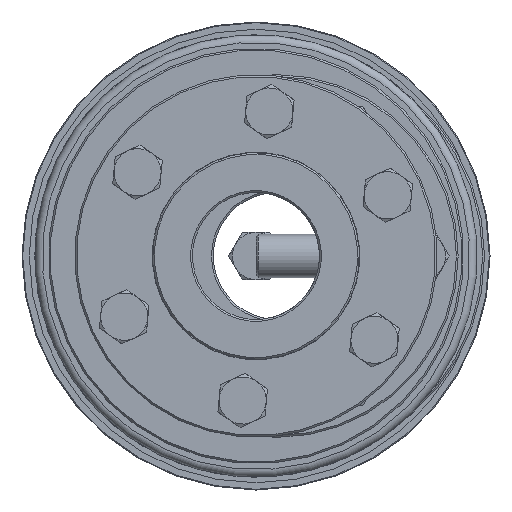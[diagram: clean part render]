
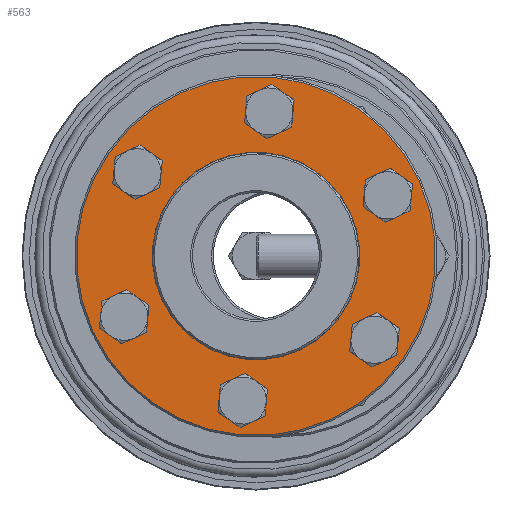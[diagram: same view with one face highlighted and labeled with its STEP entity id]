
A CAD part, left-side view. The second image highlights one B-rep face of the part: STEP entity #563.
In plain terms, the highlighted planar face has unit normal (-1, 0, 0).
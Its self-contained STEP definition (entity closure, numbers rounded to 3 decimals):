
#563 = ADVANCED_FACE( 'NONE', ( #894, #895, #896, #897, #898, #899, #900, #901 ), #902, .F. );
#894 = FACE_OUTER_BOUND( '', #1448, .T. );
#895 = FACE_BOUND( '', #1449, .T. );
#896 = FACE_BOUND( '', #1450, .T. );
#897 = FACE_BOUND( '', #1451, .T. );
#898 = FACE_BOUND( '', #1452, .T. );
#899 = FACE_BOUND( '', #1453, .T. );
#900 = FACE_BOUND( '', #1454, .T. );
#901 = FACE_BOUND( '', #1455, .T. );
#902 = PLANE( '', #1456 );
#1448 = EDGE_LOOP( '', ( #2090 ) );
#1449 = EDGE_LOOP( '', ( #2091 ) );
#1450 = EDGE_LOOP( '', ( #2092 ) );
#1451 = EDGE_LOOP( '', ( #2093 ) );
#1452 = EDGE_LOOP( '', ( #2094 ) );
#1453 = EDGE_LOOP( '', ( #2095 ) );
#1454 = EDGE_LOOP( '', ( #2096 ) );
#1455 = EDGE_LOOP( '', ( #2097 ) );
#1456 = AXIS2_PLACEMENT_3D( '', #2098, #2099, #2100 );
#2090 = ORIENTED_EDGE( '', *, *, #3081, .T. );
#2091 = ORIENTED_EDGE( '', *, *, #3082, .T. );
#2092 = ORIENTED_EDGE( '', *, *, #3083, .T. );
#2093 = ORIENTED_EDGE( '', *, *, #3084, .T. );
#2094 = ORIENTED_EDGE( '', *, *, #3080, .T. );
#2095 = ORIENTED_EDGE( '', *, *, #3085, .T. );
#2096 = ORIENTED_EDGE( '', *, *, #3071, .T. );
#2097 = ORIENTED_EDGE( '', *, *, #3079, .F. );
#2098 = CARTESIAN_POINT( '', ( 0., 28.5, 0. ) );
#2099 = DIRECTION( '', ( 1., 0., 0. ) );
#2100 = DIRECTION( '', ( 0., 1., 0. ) );
#3071 = EDGE_CURVE( 'NONE', #3401, #3401, #3402, .T. );
#3079 = EDGE_CURVE( 'NONE', #3417, #3417, #3418, .T. );
#3080 = EDGE_CURVE( 'NONE', #3419, #3419, #3420, .T. );
#3081 = EDGE_CURVE( 'NONE', #3421, #3421, #3422, .T. );
#3082 = EDGE_CURVE( 'NONE', #3423, #3423, #3424, .T. );
#3083 = EDGE_CURVE( 'NONE', #3425, #3425, #3426, .T. );
#3084 = EDGE_CURVE( 'NONE', #3427, #3427, #3428, .T. );
#3085 = EDGE_CURVE( 'NONE', #3429, #3429, #3430, .T. );
#3401 = VERTEX_POINT( '', #3865 );
#3402 = CIRCLE( '', #3866, 4.5 );
#3417 = VERTEX_POINT( '', #3881 );
#3418 = CIRCLE( '', #3882, 28.5 );
#3419 = VERTEX_POINT( '', #3883 );
#3420 = CIRCLE( '', #3884, 4.5 );
#3421 = VERTEX_POINT( '', #3885 );
#3422 = CIRCLE( '', #3886, 49.5 );
#3423 = VERTEX_POINT( '', #3887 );
#3424 = CIRCLE( '', #3888, 4.5 );
#3425 = VERTEX_POINT( '', #3889 );
#3426 = CIRCLE( '', #3890, 4.5 );
#3427 = VERTEX_POINT( '', #3891 );
#3428 = CIRCLE( '', #3892, 4.5 );
#3429 = VERTEX_POINT( '', #3893 );
#3430 = CIRCLE( '', #3894, 4.5 );
#3865 = CARTESIAN_POINT( '', ( 0., 40., -4.5 ) );
#3866 = AXIS2_PLACEMENT_3D( '', #4918, #4919, #4920 );
#3881 = CARTESIAN_POINT( '', ( 0., 0., 28.5 ) );
#3882 = AXIS2_PLACEMENT_3D( '', #4942, #4943, #4944 );
#3883 = CARTESIAN_POINT( '', ( 0., -20., -39.141 ) );
#3884 = AXIS2_PLACEMENT_3D( '', #4945, #4946, #4947 );
#3885 = CARTESIAN_POINT( '', ( 0., 0., -49.5 ) );
#3886 = AXIS2_PLACEMENT_3D( '', #4948, #4949, #4950 );
#3887 = CARTESIAN_POINT( '', ( 0., 20., 30.141 ) );
#3888 = AXIS2_PLACEMENT_3D( '', #4951, #4952, #4953 );
#3889 = CARTESIAN_POINT( '', ( 0., -20., 30.141 ) );
#3890 = AXIS2_PLACEMENT_3D( '', #4954, #4955, #4956 );
#3891 = CARTESIAN_POINT( '', ( 0., -40., -4.5 ) );
#3892 = AXIS2_PLACEMENT_3D( '', #4957, #4958, #4959 );
#3893 = CARTESIAN_POINT( '', ( 0., 20., -39.141 ) );
#3894 = AXIS2_PLACEMENT_3D( '', #4960, #4961, #4962 );
#4918 = CARTESIAN_POINT( '', ( 0., 40., 0. ) );
#4919 = DIRECTION( '', ( 1., 0., 0. ) );
#4920 = DIRECTION( '', ( 0., 0., -1. ) );
#4942 = CARTESIAN_POINT( '', ( 0., 0., 0. ) );
#4943 = DIRECTION( '', ( -1., 0., 0. ) );
#4944 = DIRECTION( '', ( 0., 0., 1. ) );
#4945 = CARTESIAN_POINT( '', ( 0., -20., -34.641 ) );
#4946 = DIRECTION( '', ( 1., 0., 0. ) );
#4947 = DIRECTION( '', ( 0., 0., -1. ) );
#4948 = CARTESIAN_POINT( '', ( 0., 0., 0. ) );
#4949 = DIRECTION( '', ( -1., 0., 0. ) );
#4950 = DIRECTION( '', ( 0., 0., -1. ) );
#4951 = CARTESIAN_POINT( '', ( 0., 20., 34.641 ) );
#4952 = DIRECTION( '', ( 1., 0., 0. ) );
#4953 = DIRECTION( '', ( 0., 0., -1. ) );
#4954 = CARTESIAN_POINT( '', ( 0., -20., 34.641 ) );
#4955 = DIRECTION( '', ( 1., 0., 0. ) );
#4956 = DIRECTION( '', ( 0., 0., -1. ) );
#4957 = CARTESIAN_POINT( '', ( 0., -40., 0. ) );
#4958 = DIRECTION( '', ( 1., 0., 0. ) );
#4959 = DIRECTION( '', ( 0., 0., -1. ) );
#4960 = CARTESIAN_POINT( '', ( 0., 20., -34.641 ) );
#4961 = DIRECTION( '', ( 1., 0., 0. ) );
#4962 = DIRECTION( '', ( 0., 0., -1. ) );
